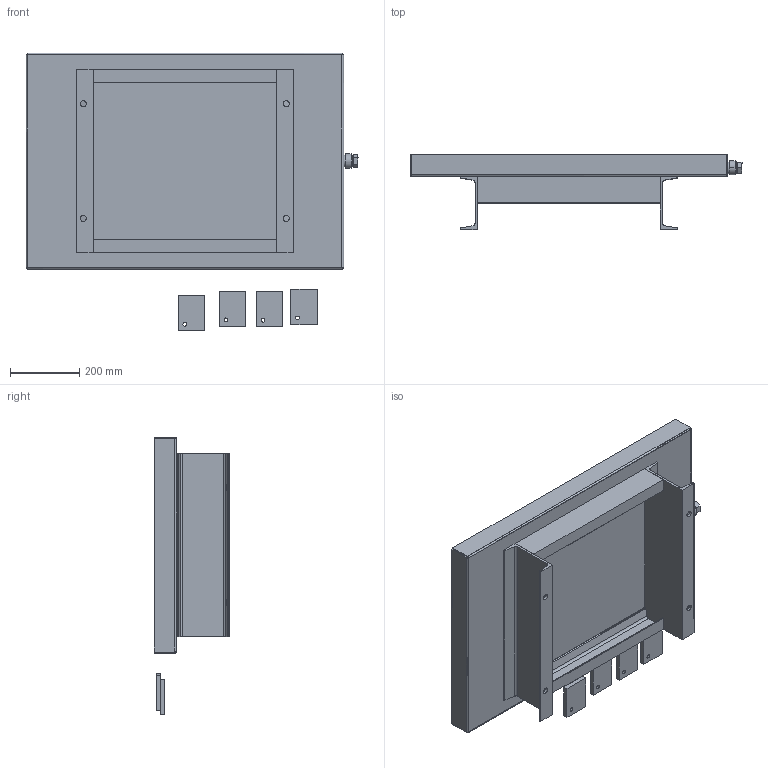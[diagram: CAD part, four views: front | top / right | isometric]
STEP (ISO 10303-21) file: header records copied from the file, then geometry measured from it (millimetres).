
FILE_DESCRIPTION (( 'STEP AP214' ), '1' );
FILE_NAME ('TDP-20.STEP', '2026-04-22T10:55:25', ( '' ), ( '' ), 'SwSTEP 2.0', 'SolidWorks 2026', '' );
FILE_SCHEMA (( 'AUTOMOTIVE_DESIGN' ));
Length unit declared in the file: inch
Products named in the file (7): #12 SAE DRAIN; TDP-20; TDP-PAD; #12 SAE PLUG; C6-TDP-20_Default<As Welded>; C3-TDP-20_Default<As Welded>
Assembly tree (11 placements, depth 2):
  TDP-20
    TDP-20
    #12 SAE DRAIN
    C6-TDP-20_Default<As Welded>  x2
    C3-TDP-20_Default<As Welded>  x2
    #12 SAE PLUG
    TDP-PAD  x4
Bounding box: 955.67 x 215.9 x 800.13 mm (x, y, z)
Volume: 5732649.2 mm3; surface area: 2393993.7 mm2
Topology: 11 solids, 11 shells, 163 faces, 378 edges, 240 vertices
Faces by surface type: plane 99, cylinder 50, bspline 8, cone 6
Entity records: 3752 total; most frequent: CARTESIAN_POINT 1105, DIRECTION 498, ORIENTED_EDGE 480, EDGE_CURVE 240, LINE 168, VECTOR 168, AXIS2_PLACEMENT_3D 165, VERTEX_POINT 148
